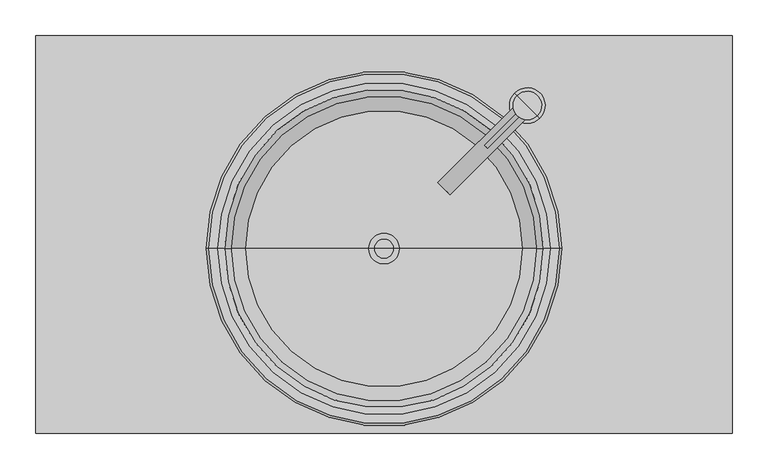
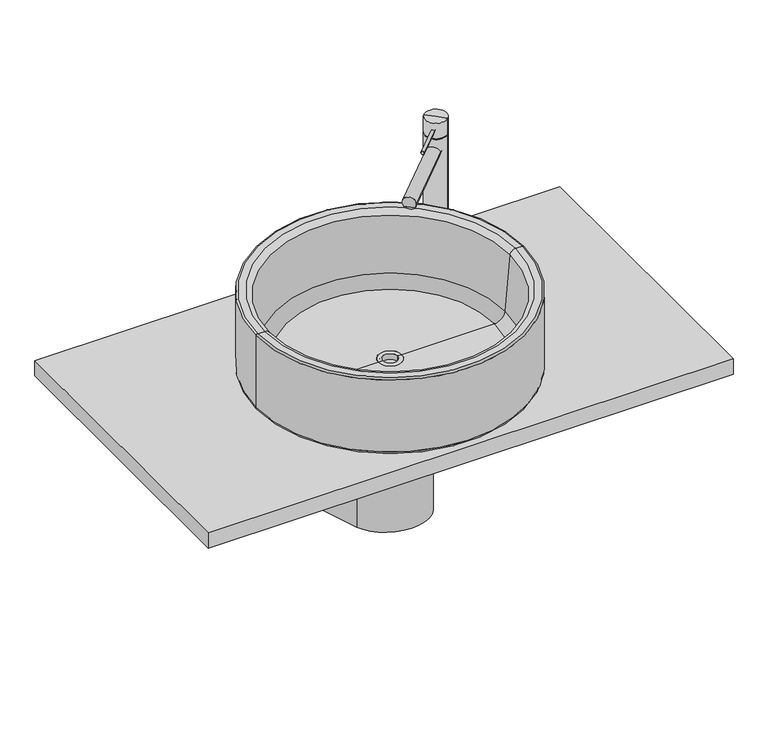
"""IFC4 building model written with IfcOpenShell, lengths in millimetres: flow terminal geometry, Lavabo moderne : Lavabo moderne."""

from ifc_helpers import new_model, si_unit, point, frame, frame_2d, origin, place, context, project, spatial, polyline, circle_curve, ellipse_curve, trimmed, segment, composite_curve, outline, extrude, source, transform, mapped, element, save
from ifc_brep_helpers import plane_surface, cylinder_surface, revolved_surface, advanced_brep


def flow_terminal_82346989(model_context):
    return source(origin(), model_context, "Body", "SolidModel", [
        advanced_brep(
        [(117.6871066, -224.1333228, 240.6419785), (100.7165438, -207.16276, 240.6419785), (102.5610803, -209.0072965, 233.1719709), (115.8425701, -222.2887863, 233.1719709), (217.8900178, -89.989286, 240.6419785), (234.8605806, -106.9598487, 240.6419785), (133.5202396, -204.6111168, 233.1719709), (120.2387498, -191.329627, 233.1719709)],
        [
            (0, 1, circle_curve(frame((109.2018252, -215.6480414, 240.6419785), z_axis=(-0.707106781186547, -0.707106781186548, 0.0), x_axis=(0.7071067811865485, -0.7071067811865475, 0.0)), 12.0)),
            (1, 2, circle_curve(frame((109.2018252, -215.6480414, 240.6419785), z_axis=(-0.707106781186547, -0.707106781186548, 0.0), x_axis=(0.7071067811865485, -0.7071067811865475, 0.0)), 12.0)),
            (2, 3),
            (3, 0, circle_curve(frame((109.2018252, -215.6480414, 240.6419785), z_axis=(-0.707106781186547, -0.707106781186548, 0.0), x_axis=(0.7071067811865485, -0.7071067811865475, 0.0)), 12.0)),
            (4, 5, circle_curve(frame((226.3752992, -98.4745674, 240.6419785), z_axis=(0.707106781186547, 0.707106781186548, 0.0), x_axis=(0.7071067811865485, -0.7071067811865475, 0.0)), 12.0)),
            (5, 4, circle_curve(frame((226.3752992, -98.4745674, 240.6419785), z_axis=(0.707106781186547, 0.707106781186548, 0.0), x_axis=(0.7071067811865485, -0.7071067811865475, 0.0)), 12.0)),
            (5, 0),
            (3, 6),
            (6, 7, circle_curve(frame((126.8794947, -197.9703719, 240.6419785), z_axis=(0.707106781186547, 0.707106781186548, 0.0), x_axis=(0.7071067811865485, -0.7071067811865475, 0.0)), 12.0)),
            (7, 2),
            (1, 4),
            (7, 6),
        ],
        [
            plane_surface(frame((117.6871066, -224.1333228, 240.6419785), z_axis=(-0.707106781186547, -0.707106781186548, 0.0), x_axis=(0.0, 0.0, 1.0))),
            plane_surface(frame((234.8605806, -106.9598487, 240.6419785), z_axis=(0.707106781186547, 0.707106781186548, 0.0), x_axis=(0.0, 0.0, -1.0))),
            cylinder_surface(frame((226.3752992, -98.4745674, 240.6419785), z_axis=(-0.7071067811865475, -0.7071067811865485, 0.0), x_axis=(0.7071067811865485, -0.7071067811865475, 0.0)), 12.0),
            plane_surface(frame((98.3017966, -204.7480128, 233.1719709), z_axis=(0.0, 0.0, -1.0), x_axis=(0.707106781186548, -0.707106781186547, 0.0))),
            plane_surface(frame((115.9794661, -187.0703433, 233.1719709), z_axis=(-0.707106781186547, -0.707106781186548, 0.0), x_axis=(0.707106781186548, -0.707106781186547, 0.0))),
        ],
        [
            (0, [[1, 2, 3, 4]]),
            (1, [[5, 6]]),
            (2, [[-6, 7, -4, 8, 9, 10, -2, 11]]),
            (2, [[-1, -7, -5, -11]]),
            (3, [[12, -8, -3, -10]]),
            (4, [[-12, -9]]),
        ],
    ),
        extrude(outline(composite_curve([segment(trimmed(circle_curve(frame_2d((0.0, -3.0)), 3.0), [point((0.0, -6.0))], [point((0.0, 0.0))], False, "CARTESIAN"), True, "CONTINUOUS"), segment(trimmed(circle_curve(frame_2d((0.0, -3.0)), 3.0), [point((0.0, 0.0))], [point((0.0, -6.0))], False, "CARTESIAN"), True, "CONTINUOUS")], self_intersect=False)), frame((170.4834109, -158.6090964, 283.2676852), z_axis=(0.707106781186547, 0.707106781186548, 0.0), x_axis=(0.0, 0.0, 1.0)), (0.0, 0.0, 1.0), 82.0430665),
        advanced_brep(
        [(226.3752992, -98.4745674, 0.0), (208.6976297, -80.7968978, 0.0), (244.0529687, -116.1522369, 0.0), (240.5174348, -112.616703, 300.0), (212.2331636, -84.3324317, 300.0), (226.3752992, -98.4745674, 300.0), (240.5174348, -112.616703, 270.0), (212.2331636, -84.3324317, 270.0), (239.1032213, -111.2024894, 270.0), (213.6473772, -85.7466453, 270.0), (239.1032213, -111.2024894, 268.0), (213.6473772, -85.7466453, 268.0), (240.5174348, -112.616703, 268.0), (212.2331636, -84.3324317, 268.0), (240.5174348, -112.616703, 4.0), (212.2331636, -84.3324317, 4.0), (244.0529687, -116.1522369, 4.0), (208.6976297, -80.7968978, 4.0)],
        [
            (0, 1),
            (1, 2, circle_curve(frame((226.3752992, -98.4745674, 0.0), z_axis=(0.0, 0.0, -1.0), x_axis=(-0.7071067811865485, 0.7071067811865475, 0.0)), 25.0)),
            (2, 0),
            (2, 1, circle_curve(frame((226.3752992, -98.4745674, 0.0), z_axis=(0.0, 0.0, -1.0), x_axis=(-0.7071067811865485, 0.7071067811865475, 0.0)), 25.0)),
            (3, 4, circle_curve(frame((226.3752992, -98.4745674, 300.0), z_axis=(0.0, 0.0, 1.0), x_axis=(-0.7071067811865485, 0.7071067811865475, 0.0)), 20.0)),
            (4, 5),
            (5, 3),
            (4, 3, circle_curve(frame((226.3752992, -98.4745674, 300.0), z_axis=(0.0, 0.0, 1.0), x_axis=(-0.7071067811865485, 0.7071067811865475, 0.0)), 20.0)),
            (3, 6),
            (6, 7, circle_curve(frame((226.3752992, -98.4745674, 270.0), z_axis=(0.0, 0.0, 1.0), x_axis=(-0.7071067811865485, 0.7071067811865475, 0.0)), 20.0)),
            (7, 4),
            (7, 6, circle_curve(frame((226.3752992, -98.4745674, 270.0), z_axis=(0.0, 0.0, 1.0), x_axis=(-0.7071067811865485, 0.7071067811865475, 0.0)), 20.0)),
            (6, 8),
            (8, 9, circle_curve(frame((226.3752992, -98.4745674, 270.0), z_axis=(0.0, 0.0, 1.0), x_axis=(-0.7071067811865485, 0.7071067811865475, 0.0)), 18.0)),
            (9, 7),
            (9, 8, circle_curve(frame((226.3752992, -98.4745674, 270.0), z_axis=(0.0, 0.0, 1.0), x_axis=(-0.7071067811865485, 0.7071067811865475, 0.0)), 18.0)),
            (8, 10),
            (10, 11, circle_curve(frame((226.3752992, -98.4745674, 268.0), z_axis=(0.0, 0.0, 1.0), x_axis=(-0.7071067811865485, 0.7071067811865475, 0.0)), 18.0)),
            (11, 9),
            (11, 10, circle_curve(frame((226.3752992, -98.4745674, 268.0), z_axis=(0.0, 0.0, 1.0), x_axis=(-0.7071067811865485, 0.7071067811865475, 0.0)), 18.0)),
            (10, 12),
            (12, 13, circle_curve(frame((226.3752992, -98.4745674, 268.0), z_axis=(0.0, 0.0, 1.0), x_axis=(-0.7071067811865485, 0.7071067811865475, 0.0)), 20.0)),
            (13, 11),
            (13, 12, circle_curve(frame((226.3752992, -98.4745674, 268.0), z_axis=(0.0, 0.0, 1.0), x_axis=(-0.7071067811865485, 0.7071067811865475, 0.0)), 20.0)),
            (12, 14),
            (14, 15, circle_curve(frame((226.3752992, -98.4745674, 4.0), z_axis=(0.0, 0.0, 1.0), x_axis=(-0.7071067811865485, 0.7071067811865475, 0.0)), 20.0)),
            (15, 13),
            (15, 14, circle_curve(frame((226.3752992, -98.4745674, 4.0), z_axis=(0.0, 0.0, 1.0), x_axis=(-0.7071067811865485, 0.7071067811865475, 0.0)), 20.0)),
            (14, 16),
            (16, 17, circle_curve(frame((226.3752992, -98.4745674, 4.0), z_axis=(0.0, 0.0, 1.0), x_axis=(-0.7071067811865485, 0.7071067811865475, 0.0)), 25.0)),
            (17, 15),
            (17, 16, circle_curve(frame((226.3752992, -98.4745674, 4.0), z_axis=(0.0, 0.0, 1.0), x_axis=(-0.7071067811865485, 0.7071067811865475, 0.0)), 25.0)),
            (1, 17),
            (16, 2),
        ],
        [
            plane_surface(frame((226.3752992, -98.4745674, 0.0), z_axis=(0.0, 0.0, -1.0), x_axis=(-0.707106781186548, 0.707106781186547, 0.0))),
            plane_surface(frame((226.3752992, -98.4745674, 300.0), z_axis=(0.0, 0.0, 1.0), x_axis=(-0.707106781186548, 0.707106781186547, 0.0))),
            cylinder_surface(frame((226.3752992, -98.4745674, -25.0), z_axis=(0.0, 0.0, -1.0), x_axis=(-0.7071067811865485, 0.7071067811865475, 0.0)), 20.0),
            plane_surface(frame((226.3752992, -98.4745674, 270.0), z_axis=(0.0, 0.0, -1.0), x_axis=(-0.707106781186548, 0.707106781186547, 0.0))),
            cylinder_surface(frame((226.3752992, -98.4745674, -25.0), z_axis=(0.0, 0.0, -1.0), x_axis=(-0.7071067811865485, 0.7071067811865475, 0.0)), 18.0),
            plane_surface(frame((226.3752992, -98.4745674, 268.0), z_axis=(0.0, 0.0, 1.0), x_axis=(-0.707106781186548, 0.707106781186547, 0.0))),
            plane_surface(frame((226.3752992, -98.4745674, 4.0), z_axis=(0.0, 0.0, 1.0), x_axis=(-0.707106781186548, 0.707106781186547, 0.0))),
            cylinder_surface(frame((226.3752992, -98.4745674, -25.0), z_axis=(0.0, 0.0, -1.0), x_axis=(-0.7071067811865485, 0.7071067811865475, 0.0)), 25.0),
        ],
        [
            (0, [[1, 2, 3]]),
            (0, [[-1, -3, 4]]),
            (1, [[5, 6, 7]]),
            (1, [[-6, 8, -7]]),
            (2, [[-5, 9, 10, 11]]),
            (2, [[-8, -11, 12, -9]]),
            (3, [[-10, 13, 14, 15]]),
            (3, [[-12, -15, 16, -13]]),
            (4, [[-14, 17, 18, 19]]),
            (4, [[-16, -19, 20, -17]]),
            (5, [[-18, 21, 22, 23]]),
            (5, [[-20, -23, 24, -21]]),
            (2, [[-22, 25, 26, 27]]),
            (2, [[-24, -27, 28, -25]]),
            (6, [[-26, 29, 30, 31]]),
            (6, [[-28, -31, 32, -29]]),
            (7, [[-2, 33, -30, 34]]),
            (7, [[-4, -34, -32, -33]]),
        ],
    ),
        advanced_brep(
        [(111.5201538, -202.0160043, 233.1719709), (122.8338623, -213.3297128, 233.1719709), (111.5201538, -202.0160043, 227.0717002), (122.8338623, -213.3297128, 227.0717002)],
        [
            (0, 1, circle_curve(frame((117.177008, -207.6728586, 233.1719709), z_axis=(0.0, 0.0, 1.0), x_axis=(0.7071067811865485, -0.7071067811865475, 0.0)), 8.0)),
            (1, 0, circle_curve(frame((117.177008, -207.6728586, 233.1719709), z_axis=(0.0, 0.0, 1.0), x_axis=(0.7071067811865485, -0.7071067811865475, 0.0)), 8.0)),
            (2, 3, circle_curve(frame((117.177008, -207.6728586, 227.0717002), z_axis=(0.0, 0.0, -1.0), x_axis=(0.7071067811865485, -0.7071067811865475, 0.0)), 8.0)),
            (3, 2, circle_curve(frame((117.177008, -207.6728586, 227.0717002), z_axis=(0.0, 0.0, -1.0), x_axis=(0.7071067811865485, -0.7071067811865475, 0.0)), 8.0)),
            (0, 2),
            (3, 1),
        ],
        [
            plane_surface(frame((122.8338623, -213.3297128, 233.1719709), z_axis=(0.0, 0.0, 1.0), x_axis=(0.707106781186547, 0.707106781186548, 0.0))),
            plane_surface(frame((122.8338623, -213.3297128, 227.0717002), z_axis=(0.0, 0.0, -1.0), x_axis=(-0.707106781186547, -0.707106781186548, 0.0))),
            cylinder_surface(frame((117.177008, -207.6728586, 227.0717002), z_axis=(0.0, 0.0, 1.0), x_axis=(0.7071067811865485, -0.7071067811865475, 0.0)), 8.0),
        ],
        [
            (0, [[1, 2]]),
            (1, [[3, 4]]),
            (2, [[-1, 5, -4, 6]]),
            (2, [[-2, -6, -3, -5]]),
        ],
    ),
        advanced_brep(
        [(93.9365302, -311.2708876, -30.0), (144.717665, 0.0, -30.0), (-95.0179319, 0.0, -30.0), (-44.2367971, -311.2708876, -30.0), (93.9365302, -311.2708876, -286.6762322), (144.717665, 0.0, -335.8242671), (-95.0179319, 0.0, -335.8242671), (-44.2367971, -311.2708876, -286.6762322)],
        [
            (0, 1),
            (1, 2),
            (2, 3),
            (3, 0, circle_curve(frame((24.8498666, -300.0, -30.0), z_axis=(0.0, 0.0, 1.0), x_axis=(1.0, 0.0, 0.0)), 70.0)),
            (0, 4),
            (4, 5),
            (5, 1),
            (5, 6),
            (6, 2),
            (6, 7),
            (7, 3),
            (7, 4, ellipse_curve(frame((24.8498666, -300.0, -288.4558461), z_axis=(0.0, 0.1559625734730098, 0.9877629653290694), x_axis=(0.0, -0.9877629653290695, 0.1559625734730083)), 70.8672044, 70.0)),
        ],
        [
            plane_surface(frame((154.8498666, 62.10691, -30.0), z_axis=(0.0, 0.0, 1.0), x_axis=(0.16101267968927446, 0.9869523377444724, 0.0))),
            plane_surface(frame((93.9365302, -311.2708876, -30.0), z_axis=(0.9869523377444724, -0.16101267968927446, 0.0), x_axis=(0.0, 0.0, -1.0))),
            plane_surface(frame((144.717665, 0.0, -30.0), z_axis=(0.0, 1.0, 0.0), x_axis=(0.0, 0.0, -1.0))),
            plane_surface(frame((-95.0179319, 0.0, -30.0), z_axis=(-0.9869523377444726, -0.1610126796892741, 0.0), x_axis=(0.0, 0.0, -1.0))),
            cylinder_surface(frame((24.8498666, -300.0, -335.8242671), z_axis=(0.0, 0.0, 1.0), x_axis=(1.0, 0.0, 0.0)), 70.0),
            plane_surface(frame((189.9645656, 0.0, -335.8242671), z_axis=(0.0, -0.1559625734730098, -0.9877629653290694), x_axis=(-1.0, 0.0, 0.0))),
        ],
        [
            (0, [[1, 2, 3, 4]]),
            (1, [[-1, 5, 6, 7]]),
            (2, [[-2, -7, 8, 9]]),
            (3, [[-3, -9, 10, 11]]),
            (4, [[-4, -11, 12, -5]]),
            (5, [[-6, -12, -10, -8]]),
        ],
    ),
        advanced_brep(
        [(274.8498666, -300.0, 5.0), (-225.1501334, -300.0, 5.0), (-220.1501334, -300.0, 0.0), (269.8498666, -300.0, 0.0), (274.8498666, -300.0, 147.0), (-225.1501334, -300.0, 147.0), (271.8498666, -300.0, 150.0), (-222.1501334, -300.0, 150.0), (259.0131783, -300.0, 150.0), (-209.3134452, -300.0, 150.0), (249.0512313, -300.0, 140.8715574), (-199.3514982, -300.0, 140.8715574), (239.6361675, -300.0, 33.2568851), (-189.9364343, -300.0, 33.2568851), (219.7122735, -300.0, 15.0), (-170.0125404, -300.0, 15.0), (46.8498666, -300.0, 15.0), (2.8498666, -300.0, 15.0), (46.8498666, -300.0, 13.464751), (2.8498666, -300.0, 13.464751), (41.8498666, -300.0, 13.464751), (7.8498666, -300.0, 13.464751), (41.8498666, -300.0, 0.0), (7.8498666, -300.0, 0.0)],
        [
            (0, 1, circle_curve(frame((24.8498666, -300.0, 5.0), z_axis=(0.0, 0.0, -1.0), x_axis=(-1.0, 0.0, 0.0)), 250.0)),
            (1, 2, circle_curve(frame((-220.1501334, -300.0, 5.0), z_axis=(0.0, -1.0, 0.0), x_axis=(-1.0, 0.0, 0.0)), 5.0)),
            (2, 3, circle_curve(frame((24.8498666, -300.0, 0.0), z_axis=(0.0, 0.0, 1.0), x_axis=(-1.0, 0.0, 0.0)), 245.0)),
            (3, 0, circle_curve(frame((269.8498666, -300.0, 5.0), z_axis=(0.0, -1.0, 0.0), x_axis=(1.0, 0.0, 0.0)), 5.0)),
            (1, 0, circle_curve(frame((24.8498666, -300.0, 5.0), z_axis=(0.0, 0.0, -1.0), x_axis=(-1.0, 0.0, 0.0)), 250.0)),
            (3, 2, circle_curve(frame((24.8498666, -300.0, 0.0), z_axis=(0.0, 0.0, 1.0), x_axis=(-1.0, 0.0, 0.0)), 245.0)),
            (4, 5, circle_curve(frame((24.8498666, -300.0, 147.0), z_axis=(0.0, 0.0, -1.0), x_axis=(-1.0, 0.0, 0.0)), 250.0)),
            (5, 1),
            (0, 4),
            (5, 4, circle_curve(frame((24.8498666, -300.0, 147.0), z_axis=(0.0, 0.0, -1.0), x_axis=(-1.0, 0.0, 0.0)), 250.0)),
            (6, 7, circle_curve(frame((24.8498666, -300.0, 150.0), z_axis=(0.0, 0.0, -1.0), x_axis=(-1.0, 0.0, 0.0)), 247.0)),
            (7, 5, circle_curve(frame((-222.1501334, -300.0, 147.0), z_axis=(0.0, -1.0, 0.0), x_axis=(-1.0, 0.0, 0.0)), 3.0)),
            (4, 6, circle_curve(frame((271.8498666, -300.0, 147.0), z_axis=(0.0, -1.0, 0.0), x_axis=(1.0, 0.0, 0.0)), 3.0)),
            (7, 6, circle_curve(frame((24.8498666, -300.0, 150.0), z_axis=(0.0, 0.0, -1.0), x_axis=(-1.0, 0.0, 0.0)), 247.0)),
            (8, 9, circle_curve(frame((24.8498666, -300.0, 150.0), z_axis=(0.0, 0.0, -1.0), x_axis=(-1.0, 0.0, 0.0)), 234.1633117)),
            (9, 7),
            (6, 8),
            (9, 8, circle_curve(frame((24.8498666, -300.0, 150.0), z_axis=(0.0, 0.0, -1.0), x_axis=(-1.0, 0.0, 0.0)), 234.1633117)),
            (10, 11, circle_curve(frame((24.8498666, -300.0, 140.8715574), z_axis=(0.0, 0.0, -1.0), x_axis=(-1.0, 0.0, 0.0)), 224.2013648)),
            (11, 9, circle_curve(frame((-209.3134452, -300.0, 140.0), z_axis=(0.0, -1.0, 0.0), x_axis=(-1.0, 0.0, 0.0)), 10.0)),
            (8, 10, circle_curve(frame((259.0131783, -300.0, 140.0), z_axis=(0.0, -1.0, 0.0), x_axis=(1.0, 0.0, 0.0)), 10.0)),
            (11, 10, circle_curve(frame((24.8498666, -300.0, 140.8715574), z_axis=(0.0, 0.0, -1.0), x_axis=(-1.0, 0.0, 0.0)), 224.2013648)),
            (12, 13, circle_curve(frame((24.8498666, -300.0, 33.2568851), z_axis=(0.0, 0.0, -1.0), x_axis=(-1.0, 0.0, 0.0)), 214.7863009)),
            (13, 11),
            (10, 12),
            (13, 12, circle_curve(frame((24.8498666, -300.0, 33.2568851), z_axis=(0.0, 0.0, -1.0), x_axis=(-1.0, 0.0, 0.0)), 214.7863009)),
            (14, 15, circle_curve(frame((24.8498666, -300.0, 15.0), z_axis=(0.0, 0.0, -1.0), x_axis=(-1.0, 0.0, 0.0)), 194.8624069)),
            (15, 13, circle_curve(frame((-170.0125404, -300.0, 35.0), z_axis=(0.0, 1.0, 0.0), x_axis=(-1.0, 0.0, 0.0)), 20.0)),
            (12, 14, circle_curve(frame((219.7122735, -300.0, 35.0), z_axis=(0.0, 1.0, 0.0), x_axis=(1.0, 0.0, 0.0)), 20.0)),
            (15, 14, circle_curve(frame((24.8498666, -300.0, 15.0), z_axis=(0.0, 0.0, -1.0), x_axis=(-1.0, 0.0, 0.0)), 194.8624069)),
            (16, 17, circle_curve(frame((24.8498666, -300.0, 15.0), z_axis=(0.0, 0.0, -1.0), x_axis=(-1.0, 0.0, 0.0)), 22.0)),
            (17, 15),
            (14, 16),
            (17, 16, circle_curve(frame((24.8498666, -300.0, 15.0), z_axis=(0.0, 0.0, -1.0), x_axis=(-1.0, 0.0, 0.0)), 22.0)),
            (18, 19, circle_curve(frame((24.8498666, -300.0, 13.464751), z_axis=(0.0, 0.0, -1.0), x_axis=(-1.0, 0.0, 0.0)), 22.0)),
            (19, 17),
            (16, 18),
            (19, 18, circle_curve(frame((24.8498666, -300.0, 13.464751), z_axis=(0.0, 0.0, -1.0), x_axis=(-1.0, 0.0, 0.0)), 22.0)),
            (20, 21, circle_curve(frame((24.8498666, -300.0, 13.464751), z_axis=(0.0, 0.0, -1.0), x_axis=(-1.0, 0.0, 0.0)), 17.0)),
            (21, 19),
            (18, 20),
            (21, 20, circle_curve(frame((24.8498666, -300.0, 13.464751), z_axis=(0.0, 0.0, -1.0), x_axis=(-1.0, 0.0, 0.0)), 17.0)),
            (22, 23, circle_curve(frame((24.8498666, -300.0, 0.0), z_axis=(0.0, 0.0, -1.0), x_axis=(-1.0, 0.0, 0.0)), 17.0)),
            (23, 21),
            (20, 22),
            (23, 22, circle_curve(frame((24.8498666, -300.0, 0.0), z_axis=(0.0, 0.0, -1.0), x_axis=(-1.0, 0.0, 0.0)), 17.0)),
            (2, 23),
            (22, 3),
        ],
        [
            revolved_surface(trimmed(ellipse_curve(frame((-220.1501334, -300.0, 5.0), z_axis=(0.0, 1.0, 0.0), x_axis=(-1.0, 0.0, 0.0)), 5.0, 5.0), [point((-220.1501334, -300.0, 0.0))], [point((-225.1501334, -300.0, 5.0))], True, "CARTESIAN"), (24.8498666, -300.0, -50.0), (0.0, 0.0, 1.0)),
            cylinder_surface(frame((24.8498666, -300.0, -50.0), z_axis=(0.0, 0.0, 1.0), x_axis=(-1.0, 0.0, 0.0)), 250.0),
            revolved_surface(trimmed(ellipse_curve(frame((-222.1501334, -300.0, 147.0), z_axis=(0.0, 1.0, 0.0), x_axis=(-1.0, 0.0, 0.0)), 3.0, 3.0), [point((-225.1501334, -300.0, 147.0))], [point((-222.1501334, -300.0, 150.0))], True, "CARTESIAN"), (24.8498666, -300.0, -50.0), (0.0, 0.0, 1.0)),
            plane_surface(frame((24.8498666, -300.0, 150.0), z_axis=(0.0, 0.0, 1.0), x_axis=(-1.0, 0.0, 0.0))),
            revolved_surface(trimmed(ellipse_curve(frame((-209.3134452, -300.0, 140.0), z_axis=(0.0, 1.0, 0.0), x_axis=(-1.0, 0.0, 0.0)), 10.0, 10.0), [point((-209.3134452, -300.0, 150.0))], [point((-199.3514982, -300.0, 140.8715574))], True, "CARTESIAN"), (24.8498666, -300.0, -50.0), (0.0, 0.0, 1.0)),
            revolved_surface(polyline([(-199.3514982, -300.0, 140.8715574), (-189.9364343, -300.0, 33.2568851)]), (24.8498666, -300.0, -50.0), (0.0, 0.0, 1.0)),
            revolved_surface(trimmed(ellipse_curve(frame((-170.0125404, -300.0, 35.0), z_axis=(0.0, -1.0, 0.0), x_axis=(-1.0, 0.0, 0.0)), 20.0, 20.0), [point((-189.9364343, -300.0, 33.2568851))], [point((-170.0125404, -300.0, 15.0))], True, "CARTESIAN"), (24.8498666, -300.0, -50.0), (0.0, 0.0, 1.0)),
            plane_surface(frame((24.8498666, -300.0, 15.0), z_axis=(0.0, 0.0, 1.0), x_axis=(-1.0, 0.0, 0.0))),
            revolved_surface(polyline([(2.8498665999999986, -300.0, 15.0), (2.8498665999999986, -300.0, 13.464751)]), (24.8498666, -300.0, -50.0), (0.0, 0.0, 1.0)),
            plane_surface(frame((24.8498666, -300.0, 13.464751), z_axis=(0.0, 0.0, 1.0), x_axis=(-1.0, 0.0, 0.0))),
            revolved_surface(polyline([(7.849866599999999, -300.0, 13.464751), (7.849866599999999, -300.0, 0.0)]), (24.8498666, -300.0, -50.0), (0.0, 0.0, 1.0)),
            plane_surface(frame((24.8498666, -300.0, 0.0), z_axis=(0.0, 0.0, -1.0), x_axis=(-1.0, 0.0, 0.0))),
        ],
        [
            (0, [[1, 2, 3, 4]]),
            (0, [[5, -4, 6, -2]]),
            (1, [[7, 8, -1, 9]]),
            (1, [[10, -9, -5, -8]]),
            (2, [[11, 12, -7, 13]]),
            (2, [[14, -13, -10, -12]]),
            (3, [[15, 16, -11, 17]]),
            (3, [[18, -17, -14, -16]]),
            (4, [[19, 20, -15, 21]]),
            (4, [[22, -21, -18, -20]]),
            (5, [[23, 24, -19, 25]]),
            (5, [[26, -25, -22, -24]]),
            (6, [[27, 28, -23, 29]]),
            (6, [[30, -29, -26, -28]]),
            (7, [[31, 32, -27, 33]]),
            (7, [[34, -33, -30, -32]]),
            (8, [[35, 36, -31, 37]]),
            (8, [[38, -37, -34, -36]]),
            (9, [[39, 40, -35, 41]]),
            (9, [[42, -41, -38, -40]]),
            (10, [[43, 44, -39, 45]]),
            (10, [[46, -45, -42, -44]]),
            (11, [[-3, 47, -43, 48]]),
            (11, [[-6, -48, -46, -47]]),
        ],
    ),
        extrude(outline(polyline([(514.8498666, 0.0), (514.8498666, -560.0), (-465.1501334, -560.0), (-465.1501334, 0.0), (514.8498666, 0.0)])), frame((0.0, 0.0, -30.0), z_axis=(0.0, 0.0, 1.0), x_axis=(1.0, 0.0, 0.0)), (0.0, 0.0, 1.0), 30.0),
        advanced_brep(
        [(38.5877729, -300.0, 15.0), (11.1119603, -300.0, 15.0), (2.8498666, -300.0, 15.0), (46.8498666, -300.0, 15.0), (38.5877729, -300.0, 3.7247134), (11.1119603, -300.0, 3.7247134), (24.8498666, -300.0, 3.7247134), (41.8498666, -300.0, 0.0), (7.8498666, -300.0, 0.0), (24.8498666, -300.0, 0.0), (41.8498666, -300.0, 13.464751), (7.8498666, -300.0, 13.464751), (46.8498666, -300.0, 13.464751), (2.8498666, -300.0, 13.464751)],
        [
            (0, 1, circle_curve(frame((24.8498666, -300.0, 15.0), z_axis=(0.0, 0.0, -1.0), x_axis=(-1.0, 0.0, 0.0)), 13.7379063)),
            (1, 2),
            (2, 3, circle_curve(frame((24.8498666, -300.0, 15.0), z_axis=(0.0, 0.0, 1.0), x_axis=(-1.0, 0.0, 0.0)), 22.0)),
            (3, 0),
            (1, 0, circle_curve(frame((24.8498666, -300.0, 15.0), z_axis=(0.0, 0.0, -1.0), x_axis=(-1.0, 0.0, 0.0)), 13.7379063)),
            (3, 2, circle_curve(frame((24.8498666, -300.0, 15.0), z_axis=(0.0, 0.0, 1.0), x_axis=(-1.0, 0.0, 0.0)), 22.0)),
            (4, 5, circle_curve(frame((24.8498666, -300.0, 3.7247134), z_axis=(0.0, 0.0, -1.0), x_axis=(-1.0, 0.0, 0.0)), 13.7379063)),
            (5, 1),
            (0, 4),
            (5, 4, circle_curve(frame((24.8498666, -300.0, 3.7247134), z_axis=(0.0, 0.0, -1.0), x_axis=(-1.0, 0.0, 0.0)), 13.7379063)),
            (6, 5),
            (4, 6),
            (7, 8, circle_curve(frame((24.8498666, -300.0, 0.0), z_axis=(0.0, 0.0, -1.0), x_axis=(-1.0, 0.0, 0.0)), 17.0)),
            (8, 9),
            (9, 7),
            (8, 7, circle_curve(frame((24.8498666, -300.0, 0.0), z_axis=(0.0, 0.0, -1.0), x_axis=(-1.0, 0.0, 0.0)), 17.0)),
            (10, 11, circle_curve(frame((24.8498666, -300.0, 13.464751), z_axis=(0.0, 0.0, -1.0), x_axis=(-1.0, 0.0, 0.0)), 17.0)),
            (11, 8),
            (7, 10),
            (11, 10, circle_curve(frame((24.8498666, -300.0, 13.464751), z_axis=(0.0, 0.0, -1.0), x_axis=(-1.0, 0.0, 0.0)), 17.0)),
            (12, 13, circle_curve(frame((24.8498666, -300.0, 13.464751), z_axis=(0.0, 0.0, -1.0), x_axis=(-1.0, 0.0, 0.0)), 22.0)),
            (13, 11),
            (10, 12),
            (13, 12, circle_curve(frame((24.8498666, -300.0, 13.464751), z_axis=(0.0, 0.0, -1.0), x_axis=(-1.0, 0.0, 0.0)), 22.0)),
            (2, 13),
            (12, 3),
        ],
        [
            plane_surface(frame((24.8498666, -300.0, 15.0), z_axis=(0.0, 0.0, 1.0), x_axis=(-1.0, 0.0, 0.0))),
            revolved_surface(polyline([(11.111960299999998, -300.0, 15.000000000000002), (11.111960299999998, -300.0, 3.7247134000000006)]), (24.8498666, -300.0, -6.9916745), (0.0, 0.0, 1.0)),
            plane_surface(frame((24.8498666, -300.0, 3.7247134), z_axis=(0.0, 0.0, 1.0), x_axis=(-1.0, 0.0, 0.0))),
            plane_surface(frame((24.8498666, -300.0, 0.0), z_axis=(0.0, 0.0, -1.0), x_axis=(-1.0, 0.0, 0.0))),
            cylinder_surface(frame((24.8498666, -300.0, -6.9916745), z_axis=(0.0, 0.0, 1.0), x_axis=(-1.0, 0.0, 0.0)), 17.0),
            plane_surface(frame((24.8498666, -300.0, 13.464751), z_axis=(0.0, 0.0, -1.0), x_axis=(-1.0, 0.0, 0.0))),
            cylinder_surface(frame((24.8498666, -300.0, -6.9916745), z_axis=(0.0, 0.0, 1.0), x_axis=(-1.0, 0.0, 0.0)), 22.0),
        ],
        [
            (0, [[1, 2, 3, 4]]),
            (0, [[5, -4, 6, -2]]),
            (1, [[7, 8, -1, 9]]),
            (1, [[10, -9, -5, -8]]),
            (2, [[11, -7, 12]]),
            (2, [[-12, -10, -11]]),
            (3, [[13, 14, 15]]),
            (3, [[16, -15, -14]]),
            (4, [[17, 18, -13, 19]]),
            (4, [[20, -19, -16, -18]]),
            (5, [[21, 22, -17, 23]]),
            (5, [[24, -23, -20, -22]]),
            (6, [[-3, 25, -21, 26]]),
            (6, [[-6, -26, -24, -25]]),
        ],
    ),
    ])


if __name__ == "__main__":
    model = new_model("IFC4")
    model_context = context("Model", 3, world=origin())
    ifc_project = project(units=[si_unit("LENGTHUNIT", "METRE", prefix="MILLI")], contexts=[model_context])
    site = spatial("IfcSite", under=ifc_project)
    building = spatial("IfcBuilding", under=site)
    placement = place(None, origin())
    flow_terminal_shape = flow_terminal_82346989(model_context)
    element("IfcFlowTerminal", 1, ObjectType="Lavabo moderne : Lavabo moderne", at=placement, inside=building, context=model_context, shape_type="MappedRepresentation", body=[
        mapped(flow_terminal_shape, transform((0.0, 0.0, 0.0), x_axis=(1.0, 0.0, 0.0), y_axis=(0.0, 1.0, 0.0), z_axis=(0.0, 0.0, 1.0))),
    ])
    save(model, "model.ifc")
